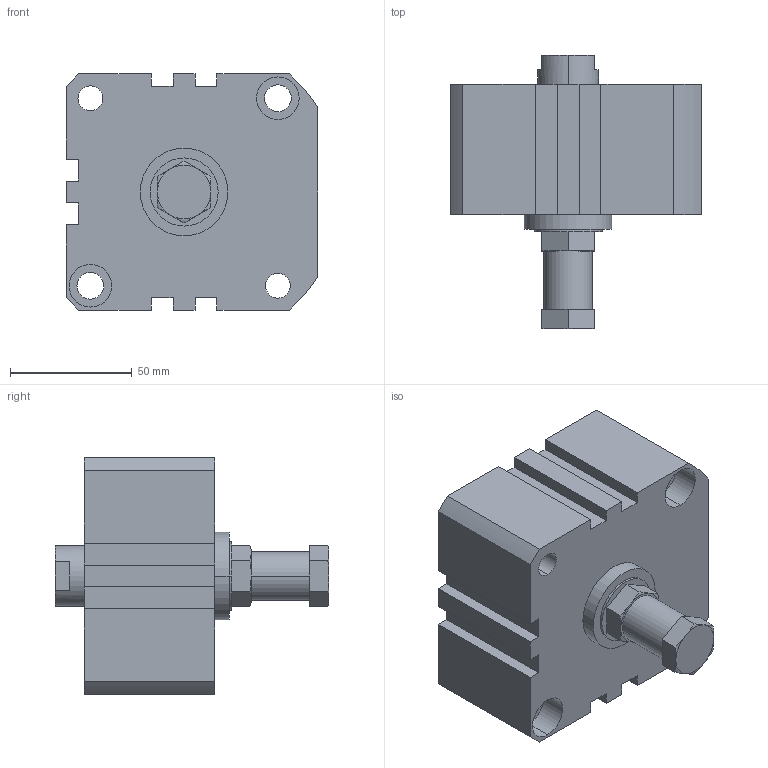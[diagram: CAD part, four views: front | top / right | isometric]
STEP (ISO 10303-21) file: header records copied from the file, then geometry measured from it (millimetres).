
FILE_DESCRIPTION (( 'STEP AP203' ), '1' );
FILE_NAME ('XCA2-80-10.STEP', '2016-05-24T02:32:06', ( '' ), ( '' ), 'SwSTEP 2.0', 'SolidWorks 2014', '' );
FILE_SCHEMA (( 'CONFIG_CONTROL_DESIGN' ));
Length unit declared in the file: millimetre
Products named in the file (3): X#A2-80-H; XC#2-80-10; XCA2-80-10
Assembly tree (2 placements, depth 2):
  XCA2-80-10
    XC#2-80-10
    X#A2-80-H
Bounding box: 103.5 x 112.5 x 97 mm (x, y, z)
Volume: 497758.8 mm3; surface area: 60371.6 mm2
Topology: 2 solids, 2 shells, 135 faces, 329 edges, 210 vertices
Faces by surface type: plane 64, cylinder 49, torus 12, cone 10
Entity records: 4437 total; most frequent: CARTESIAN_POINT 905, DIRECTION 702, ORIENTED_EDGE 646, EDGE_CURVE 323, AXIS2_PLACEMENT_3D 263, VERTEX_POINT 210, LINE 176, VECTOR 176
